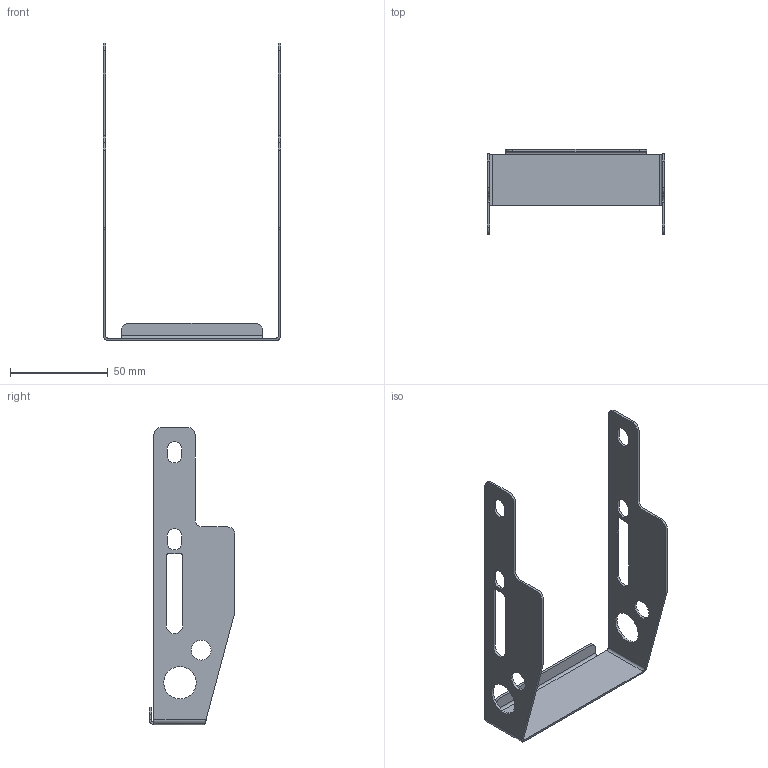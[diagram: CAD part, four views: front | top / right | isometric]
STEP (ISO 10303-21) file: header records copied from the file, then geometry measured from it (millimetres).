
FILE_DESCRIPTION (( 'STEP AP203' ), '1' );
FILE_NAME ('207218-03.STEP', '2016-09-20T13:27:00', ( '' ), ( '' ), 'SwSTEP 2.0', 'SolidWorks 2015', '' );
FILE_SCHEMA (( 'CONFIG_CONTROL_DESIGN' ));
Length unit declared in the file: inch
Products named in the file (1): 207218-03
Bounding box: 90.45 x 43.71 x 151.79 mm (x, y, z)
Volume: 13377.6 mm3; surface area: 23588.4 mm2
Topology: 1 solids, 1 shells, 88 faces, 242 edges, 156 vertices
Faces by surface type: cylinder 46, plane 42
Entity records: 2925 total; most frequent: DIRECTION 504, CARTESIAN_POINT 499, ORIENTED_EDGE 484, EDGE_CURVE 242, AXIS2_PLACEMENT_3D 177, VERTEX_POINT 156, LINE 150, VECTOR 150
